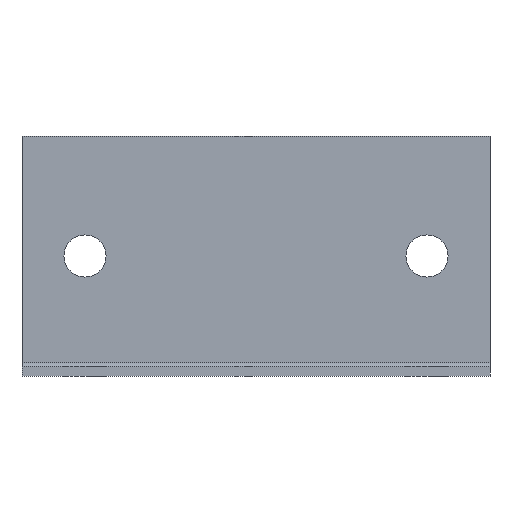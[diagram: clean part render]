
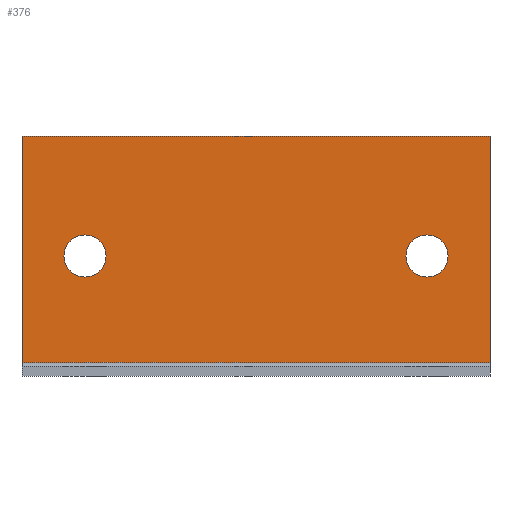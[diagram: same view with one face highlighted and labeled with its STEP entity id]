
A CAD part, front view. The second image highlights one B-rep face of the part: STEP entity #376.
In plain terms, the highlighted planar face has unit normal (0, -1, 0).
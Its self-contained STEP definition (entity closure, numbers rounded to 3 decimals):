
#3=CARTESIAN_POINT('',(513.999,197.,40.));
#4=VERTEX_POINT('',#3);
#7=CARTESIAN_POINT('',(627.999,197.,40.));
#8=VERTEX_POINT('',#7);
#33=CARTESIAN_POINT('',(656.,197.,80.));
#34=VERTEX_POINT('',#33);
#35=CARTESIAN_POINT('',(500.,197.,80.));
#36=VERTEX_POINT('',#35);
#37=CARTESIAN_POINT('',(656.,197.,4.5));
#38=VERTEX_POINT('',#37);
#39=CARTESIAN_POINT('',(500.,197.,4.5));
#40=VERTEX_POINT('',#39);
#55=CARTESIAN_POINT('',(521.,197.,40.));
#56=DIRECTION('',(0.,1.,0.));
#57=DIRECTION('',(-1.,0.,0.));
#58=AXIS2_PLACEMENT_3D('',#55,#56,#57);
#59=CIRCLE('',#58,7.001);
#60=EDGE_CURVE('',#4,#4,#59,.T.);
#67=CARTESIAN_POINT('',(635.,197.,40.));
#68=DIRECTION('',(0.,1.,0.));
#69=DIRECTION('',(-1.,0.,0.));
#70=AXIS2_PLACEMENT_3D('',#67,#68,#69);
#71=CIRCLE('',#70,7.001);
#72=EDGE_CURVE('',#8,#8,#71,.T.);
#159=DIRECTION('',(-1.,0.,0.));
#160=VECTOR('',#159,156.);
#161=CARTESIAN_POINT('',(656.,197.,80.));
#162=LINE('',#161,#160);
#163=EDGE_CURVE('',#34,#36,#162,.T.);
#164=DIRECTION('',(0.,0.,-1.));
#165=VECTOR('',#164,75.5);
#166=CARTESIAN_POINT('',(656.,197.,80.));
#167=LINE('',#166,#165);
#168=EDGE_CURVE('',#34,#38,#167,.T.);
#169=DIRECTION('',(0.,0.,1.));
#170=VECTOR('',#169,75.5);
#171=CARTESIAN_POINT('',(500.,197.,4.5));
#172=LINE('',#171,#170);
#173=EDGE_CURVE('',#40,#36,#172,.T.);
#174=DIRECTION('',(-1.,0.,0.));
#175=VECTOR('',#174,156.);
#176=CARTESIAN_POINT('',(656.,197.,4.5));
#177=LINE('',#176,#175);
#178=EDGE_CURVE('',#38,#40,#177,.T.);
#249=ORIENTED_EDGE('',*,*,#60,.T.);
#250=ORIENTED_EDGE('',*,*,#72,.T.);
#251=ORIENTED_EDGE('',*,*,#168,.F.);
#252=ORIENTED_EDGE('',*,*,#163,.T.);
#253=ORIENTED_EDGE('',*,*,#173,.F.);
#254=ORIENTED_EDGE('',*,*,#178,.F.);
#365=CARTESIAN_POINT('',(656.,197.,4.5));
#366=DIRECTION('',(0.,-1.,0.));
#367=DIRECTION('',(1.,0.,0.));
#368=AXIS2_PLACEMENT_3D('',#365,#366,#367);
#369=PLANE('',#368);
#370=EDGE_LOOP('',(#249));
#371=FACE_OUTER_BOUND('',#370,.T.);
#372=EDGE_LOOP('',(#250));
#373=FACE_BOUND('',#372,.T.);
#374=EDGE_LOOP('',(#251,#252,#253,#254));
#375=FACE_BOUND('',#374,.T.);
#376=ADVANCED_FACE('',(#371,#373,#375),#369,.T.);
